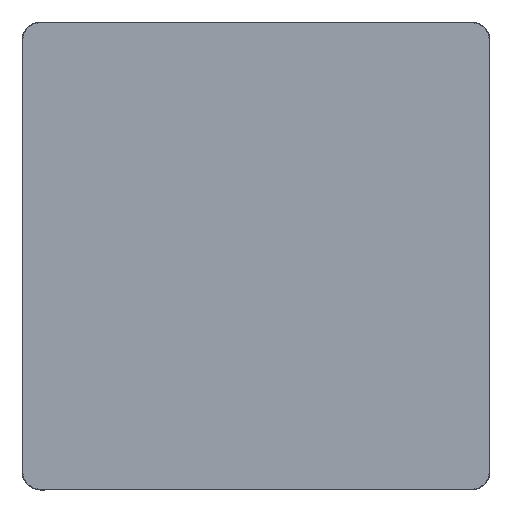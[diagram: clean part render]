
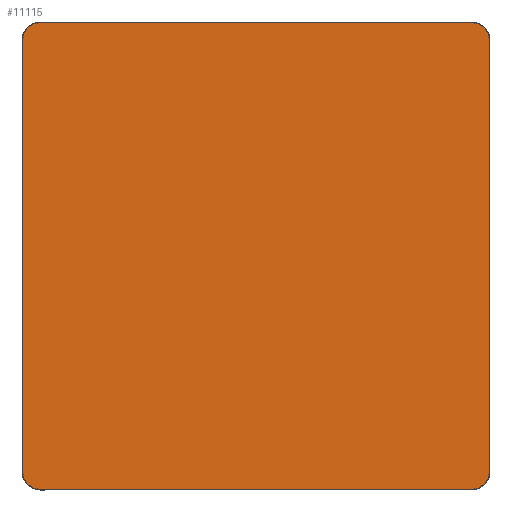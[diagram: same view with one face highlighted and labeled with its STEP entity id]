
A CAD part, top view. The second image highlights one B-rep face of the part: STEP entity #11115.
In plain terms, the highlighted planar face has unit normal (0, 0, 1).
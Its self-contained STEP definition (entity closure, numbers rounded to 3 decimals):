
#11040=CARTESIAN_POINT('',(0.,0.,20.));
#11041=DIRECTION('',(1.,0.,0.));
#11042=DIRECTION('',(0.,0.,1.));
#11043=AXIS2_PLACEMENT_3D('',#11040,#11042,#11041);
#11044=PLANE('',#11043);
#11045=CARTESIAN_POINT('',(-415.,-448.5,20.));
#11046=VERTEX_POINT('',#11045);
#11047=CARTESIAN_POINT('',(415.,-448.5,20.));
#11048=VERTEX_POINT('',#11047);
#11049=CARTESIAN_POINT('',(-415.,-448.5,20.));
#11050=DIRECTION('',(1.,0.,0.));
#11051=VECTOR('',#11050,830.);
#11052=LINE('',#11049,#11051);
#11053=EDGE_CURVE('',#11046,#11048,#11052,.T.);
#11054=ORIENTED_EDGE('E105',*,*,#11053,.T.);
#11055=CARTESIAN_POINT('',(448.5,-415.,20.));
#11056=VERTEX_POINT('',#11055);
#11057=CARTESIAN_POINT('',(415.,-415.,20.));
#11058=DIRECTION('',(0.,-1.,0.));
#11059=DIRECTION('',(0.,0.,1.));
#11060=AXIS2_PLACEMENT_3D('',#11057,#11059,#11058);
#11061=CIRCLE('',#11060,33.5);
#11062=EDGE_CURVE('',#11048,#11056,#11061,.T.);
#11063=ORIENTED_EDGE('E107',*,*,#11062,.T.);
#11064=CARTESIAN_POINT('',(448.5,415.,20.));
#11065=VERTEX_POINT('',#11064);
#11066=CARTESIAN_POINT('',(448.5,-415.,20.));
#11067=DIRECTION('',(0.,1.,0.));
#11068=VECTOR('',#11067,830.);
#11069=LINE('',#11066,#11068);
#11070=EDGE_CURVE('',#11056,#11065,#11069,.T.);
#11071=ORIENTED_EDGE('E109',*,*,#11070,.T.);
#11072=CARTESIAN_POINT('',(415.,448.5,20.));
#11073=VERTEX_POINT('',#11072);
#11074=CARTESIAN_POINT('',(415.,415.,20.));
#11075=DIRECTION('',(1.,0.,0.));
#11076=DIRECTION('',(0.,0.,1.));
#11077=AXIS2_PLACEMENT_3D('',#11074,#11076,#11075);
#11078=CIRCLE('',#11077,33.5);
#11079=EDGE_CURVE('',#11065,#11073,#11078,.T.);
#11080=ORIENTED_EDGE('E111',*,*,#11079,.T.);
#11081=CARTESIAN_POINT('',(-415.,448.5,20.));
#11082=VERTEX_POINT('',#11081);
#11083=CARTESIAN_POINT('',(415.,448.5,20.));
#11084=DIRECTION('',(-1.,0.,0.));
#11085=VECTOR('',#11084,830.);
#11086=LINE('',#11083,#11085);
#11087=EDGE_CURVE('',#11073,#11082,#11086,.T.);
#11088=ORIENTED_EDGE('E113',*,*,#11087,.T.);
#11089=CARTESIAN_POINT('',(-448.5,415.,20.));
#11090=VERTEX_POINT('',#11089);
#11091=CARTESIAN_POINT('',(-415.,415.,20.));
#11092=DIRECTION('',(0.,1.,0.));
#11093=DIRECTION('',(0.,0.,1.));
#11094=AXIS2_PLACEMENT_3D('',#11091,#11093,#11092);
#11095=CIRCLE('',#11094,33.5);
#11096=EDGE_CURVE('',#11082,#11090,#11095,.T.);
#11097=ORIENTED_EDGE('E115',*,*,#11096,.T.);
#11098=CARTESIAN_POINT('',(-448.5,-415.,20.));
#11099=VERTEX_POINT('',#11098);
#11100=CARTESIAN_POINT('',(-448.5,415.,20.));
#11101=DIRECTION('',(0.,-1.,0.));
#11102=VECTOR('',#11101,830.);
#11103=LINE('',#11100,#11102);
#11104=EDGE_CURVE('',#11090,#11099,#11103,.T.);
#11105=ORIENTED_EDGE('E117',*,*,#11104,.T.);
#11106=CARTESIAN_POINT('',(-415.,-415.,20.));
#11107=DIRECTION('',(-1.,0.,0.));
#11108=DIRECTION('',(-0.,0.,1.));
#11109=AXIS2_PLACEMENT_3D('',#11106,#11108,#11107);
#11110=CIRCLE('',#11109,33.5);
#11111=EDGE_CURVE('',#11099,#11046,#11110,.T.);
#11112=ORIENTED_EDGE('E119',*,*,#11111,.T.);
#11113=EDGE_LOOP('',(#11054,#11063,#11071,#11080,#11088,#11097,#11105,#11112));
#11114=FACE_OUTER_BOUND('',#11113,.T.);
#11115=ADVANCED_FACE('F2',(#11114),#11044,.T.);
